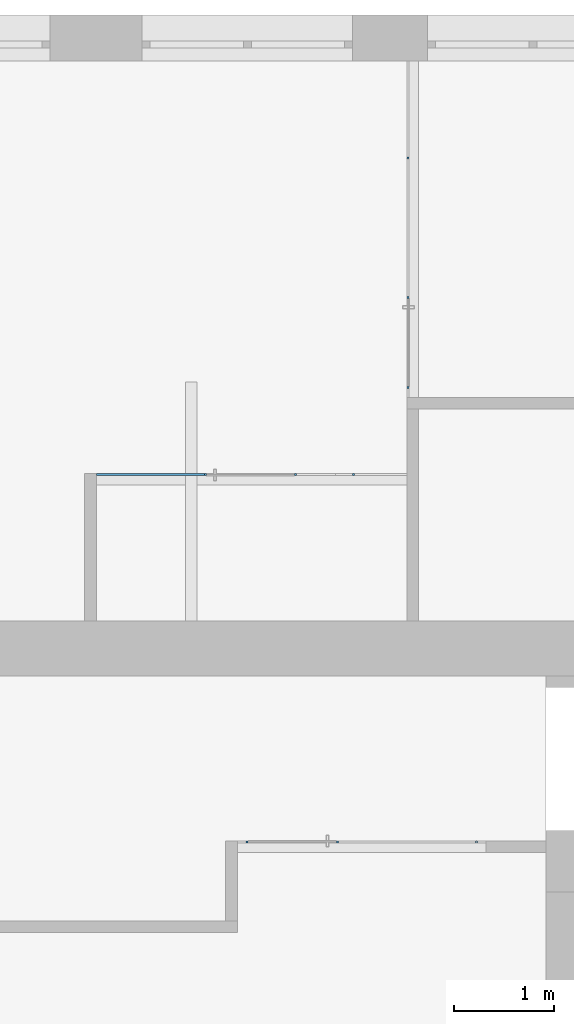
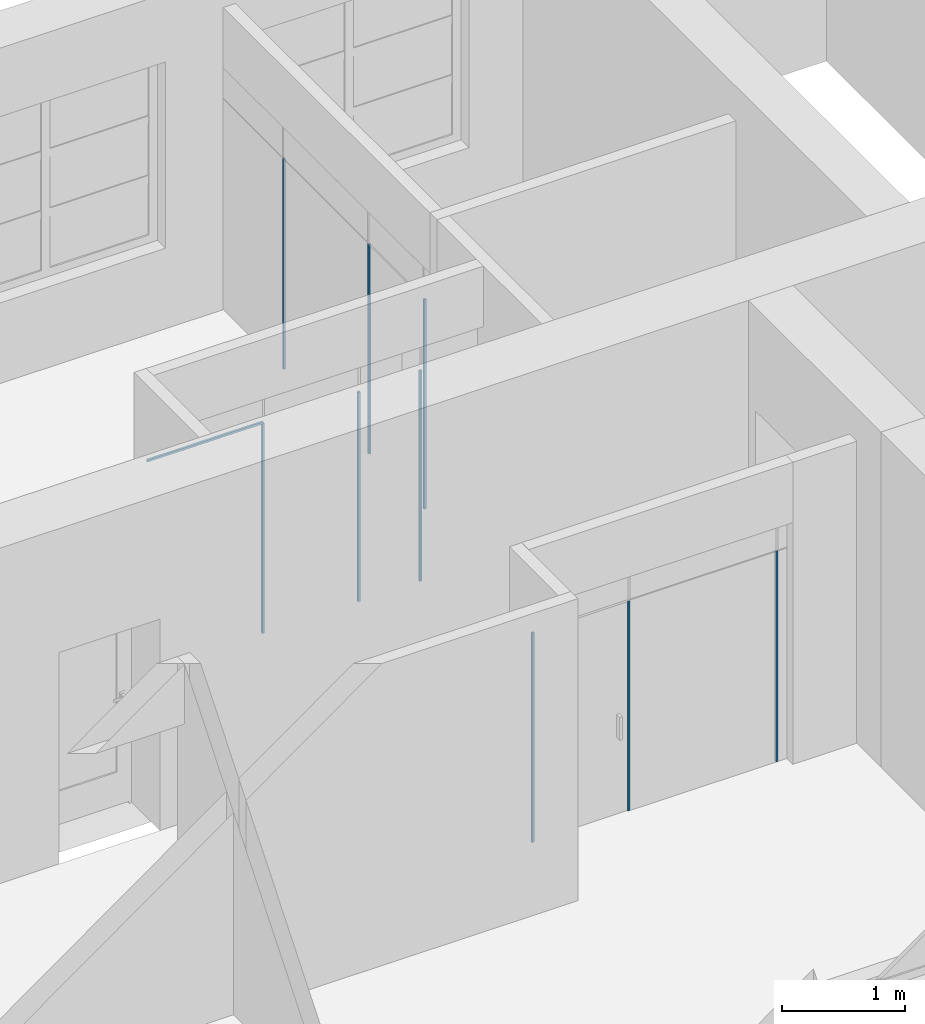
# One storey, part 4 of 73: 10 members, 3 elements without a shape of their own.
"""IFC2X3 building model written with IfcOpenShell, lengths in millimetres."""

import ifcopenshell
import ifcopenshell.guid

model = None  # the IFC model being written
_history = None  # IfcOwnerHistory: only IFC2X3 demands one
_inside = {}  # id of a spatial element -> (the spatial element, [elements in it])
_under = {}  # id of a project, library or spatial element -> (it, [spatial elements below it])
_declared = {}  # id of a project -> (the project, [libraries it declares])
_typed = {}  # id of a type object -> (the type object, [elements of that type])
_made_of = {}  # id of a material, layer set ... -> (it, [elements and type objects made of it])


def new_model(schema):
    """Start an empty IFC model of exactly this schema.

    Asked for "IFC4X3", IfcOpenShell would pick the latest addendum, in which some entities
    have other attributes; the version numbers below select the first issue.
    IFC2X3 requires an IfcOwnerHistory on every rooted entity: one is made here for all.
    """
    global model, _history
    if schema == "IFC4X3":
        model = ifcopenshell.file(schema_version=(4, 3, 0, 0))
    else:
        model = ifcopenshell.file(schema=schema)
    _inside.clear()
    _under.clear()
    _declared.clear()
    _typed.clear()
    _made_of.clear()
    _history = None
    if model.schema == "IFC2X3":
        org = make("IfcOrganization", Name="unknown")
        user = make(
            "IfcPersonAndOrganization",
            ThePerson=make("IfcPerson", FamilyName="unknown"),
            TheOrganization=org,
        )
        app = make(
            "IfcApplication",
            ApplicationDeveloper=org,
            Version="unknown",
            ApplicationFullName="unknown",
            ApplicationIdentifier="unknown",
        )
        _history = make(
            "IfcOwnerHistory",
            OwningUser=user,
            OwningApplication=app,
            ChangeAction="ADDED",
            CreationDate=0,
        )
    return model


def make(cls, **values):
    """One entity of the class cls with the attributes given. An attribute that is None is left unset."""
    return model.create_entity(
        cls, **{name: value for name, value in values.items() if value is not None}
    )


def entity(cls, *values):
    """Any entity or typed value of the class cls, its attributes in the order of the schema. None: left unset."""
    e = model.create_entity(cls)
    for i, value in enumerate(values):
        if value is not None:
            e[i] = value
    return e


def rooted(cls, **values):
    """An entity with a GlobalId (a new one), such as an element, a storey or a relation."""
    return make(cls, GlobalId=ifcopenshell.guid.new(), OwnerHistory=_history, **values)


def si_unit(unit_type, name, prefix=None):
    """IfcSIUnit, for example si_unit("LENGTHUNIT", "METRE", prefix="MILLI")."""
    return make("IfcSIUnit", UnitType=unit_type, Prefix=prefix, Name=name)


def converted_unit(unit_type, name, factor, base, dimensions=None, offset=None):
    """IfcConversionBasedUnit, such as the inch: factor (a typed value) times the base unit."""
    return make(
        "IfcConversionBasedUnit"
        if offset is None
        else "IfcConversionBasedUnitWithOffset",
        ConversionOffset=offset,
        Dimensions=None
        if dimensions is None
        else entity("IfcDimensionalExponents", *dimensions),
        UnitType=unit_type,
        Name=name,
        ConversionFactor=make(
            "IfcMeasureWithUnit", ValueComponent=factor, UnitComponent=base
        ),
    )


def derived_unit(unit_type, elements):
    """IfcDerivedUnit: a product of units, each with its exponent."""
    return make(
        "IfcDerivedUnit",
        Elements=[
            make("IfcDerivedUnitElement", Unit=unit, Exponent=power)
            for unit, power in elements
        ],
        UnitType=unit_type,
    )


def assignment(units):
    """IfcUnitAssignment: the units of a project."""
    return None if units is None else make("IfcUnitAssignment", Units=units)


def point(xyz):
    """IfcCartesianPoint."""
    return None if xyz is None else make("IfcCartesianPoint", Coordinates=xyz)


def direction(xyz):
    """IfcDirection."""
    return None if xyz is None else make("IfcDirection", DirectionRatios=xyz)


def frame(location, z_axis=None, x_axis=None):
    """IfcAxis2Placement3D, a coordinate frame: its origin and axes. An axis left out is left unset."""
    return make(
        "IfcAxis2Placement3D",
        Location=point(location),
        Axis=direction(z_axis),
        RefDirection=direction(x_axis),
    )


def frame_2d(location, x_axis=None):
    """IfcAxis2Placement2D, a coordinate frame in the plane: its origin and x axis."""
    return make(
        "IfcAxis2Placement2D", Location=point(location), RefDirection=direction(x_axis)
    )


def origin():
    """The frame at (0, 0, 0) with its axes left unset."""
    return frame((0.0, 0.0, 0.0))


def origin_2d_with_axis():
    """The frame at (0, 0) in the plane with the x axis (1, 0) written out."""
    return frame_2d((0.0, 0.0), x_axis=(1.0, 0.0))


def place(relative_to, where):
    """IfcLocalPlacement: puts the frame where relative to a parent placement (None: the world)."""
    return make(
        "IfcLocalPlacement", PlacementRelTo=relative_to, RelativePlacement=where
    )


def context(
    kind, dimensions, precision=None, world=None, true_north=None, identifier=None
):
    """IfcGeometricRepresentationContext, for example the 3D "Model" context."""
    return make(
        "IfcGeometricRepresentationContext",
        ContextIdentifier=identifier,
        ContextType=kind,
        CoordinateSpaceDimension=dimensions,
        Precision=precision,
        WorldCoordinateSystem=world,
        TrueNorth=true_north,
    )


def subcontext(parent, identifier, kind, view, scale=None):
    """IfcGeometricRepresentationSubContext, for example "Body" below "Model"."""
    return make(
        "IfcGeometricRepresentationSubContext",
        ContextIdentifier=identifier,
        ContextType=kind,
        ParentContext=parent,
        TargetScale=scale,
        TargetView=view,
    )


def project(units=None, contexts=None):
    """IfcProject with its units and contexts."""
    return rooted(
        "IfcProject",
        Name="project",
        RepresentationContexts=contexts,
        UnitsInContext=assignment(units),
    )


def spatial(cls, under=None, at=None, **own):
    """A site, building, storey or space (cls), placed at a placement, below another one or the project."""
    s = rooted(cls, ObjectPlacement=at, **own)
    if under is not None:
        _under.setdefault(under.id(), (under, []))[1].append(s)
    return s


def profile(cls, at=None, kind="AREA", **sizes):
    """A parametric profile (cls). Its sizes go by their IFC names, for example OverallWidth=200.0."""
    return make(cls, ProfileType=kind, Position=at, **sizes)


def rectangle(**sizes):
    """IfcRectangleProfileDef."""
    return profile("IfcRectangleProfileDef", **sizes)


def extrude(swept, where, along, depth):
    """IfcExtrudedAreaSolid: the profile swept, set in the frame where, extruded along a direction by depth."""
    return make(
        "IfcExtrudedAreaSolid",
        SweptArea=swept,
        Position=where,
        ExtrudedDirection=direction(along),
        Depth=depth,
    )


def shape(context_of_items, identifier, shape_type, items):
    """IfcShapeRepresentation: the items that make up one representation, for example the "Body"."""
    return make(
        "IfcShapeRepresentation",
        ContextOfItems=context_of_items,
        RepresentationIdentifier=identifier,
        RepresentationType=shape_type,
        Items=items,
    )


def source(mapping_origin, context_of_items, identifier, shape_type, items):
    """IfcRepresentationMap: a shape defined once, which mapped items show again and again."""
    return make(
        "IfcRepresentationMap",
        MappingOrigin=mapping_origin,
        MappedRepresentation=shape(context_of_items, identifier, shape_type, items),
    )


def transform(
    local_origin,
    x_axis=None,
    y_axis=None,
    z_axis=None,
    scale=None,
    scale2=None,
    scale3=None,
    uniform=True,
):
    """IfcCartesianTransformationOperator3D, or its non-uniform kind. x_axis, y_axis, z_axis: its Axis1, 2, 3."""
    if uniform:
        return make(
            "IfcCartesianTransformationOperator3D",
            Axis1=direction(x_axis),
            Axis2=direction(y_axis),
            LocalOrigin=point(local_origin),
            Scale=scale,
            Axis3=direction(z_axis),
        )
    return make(
        "IfcCartesianTransformationOperator3DnonUniform",
        Axis1=direction(x_axis),
        Axis2=direction(y_axis),
        LocalOrigin=point(local_origin),
        Scale=scale,
        Axis3=direction(z_axis),
        Scale2=scale2,
        Scale3=scale3,
    )


def mapped(mapping_source, mapping_target):
    """IfcMappedItem: shows the shape of a source again, moved by a transform."""
    return make(
        "IfcMappedItem", MappingSource=mapping_source, MappingTarget=mapping_target
    )


def material(Name=None, Category=None):
    """IfcMaterial."""
    return make("IfcMaterial", Name=Name, Category=Category)


def made_of(thing, what):
    """Note that an element or type object is made of a material, layer set ...; save() writes the relation."""
    if what is not None:
        _made_of.setdefault(what.id(), (what, []))[1].append(thing)
    return thing


def type_object(cls, material=None, **own):
    """A type object (cls), such as IfcWallType, which elements share."""
    return made_of(rooted(cls, **own), material)


def type_shapes(of_type, sources):
    """Give a type object the sources (RepresentationMaps) that its elements show as mapped items."""
    of_type.RepresentationMaps = sources


def element(
    cls,
    number,
    at=None,
    inside=None,
    cuts=None,
    type_object=None,
    material=None,
    context=None,
    identifier="Body",
    shape_type=None,
    held_by="IfcProductDefinitionShape",
    body=None,
    shapes=None,
    **own,
):
    """One element of the class cls, such as IfcWall. Its Tag is "e" and its number.

    at: its placement. inside: the storey or other place that contains it. cuts: it is an
    opening in that element (IfcRelVoidsElement). A single representation is given by context,
    identifier, shape_type and body (its items); several are given by shapes. held_by: the class
    of the entity that holds the representations. save() writes the other relations.
    """
    e = rooted(cls, Tag="e%d" % number, ObjectPlacement=at, **own)
    if body is not None:
        shapes = [shape(context, identifier, shape_type, body)]
    if shapes is not None:
        e.Representation = make(held_by, Representations=shapes)
    if inside is not None:
        _inside.setdefault(inside.id(), (inside, []))[1].append(e)
    if cuts is not None:
        rooted(
            "IfcRelVoidsElement", RelatingBuildingElement=cuts, RelatedOpeningElement=e
        )
    if type_object is not None:
        _typed.setdefault(type_object.id(), (type_object, []))[1].append(e)
    return made_of(e, material)


def aggregate(whole, parts):
    """IfcRelAggregates: a whole, such as a stair, and the parts it consists of."""
    return rooted("IfcRelAggregates", RelatingObject=whole, RelatedObjects=parts)


def save(model, path):
    """Write the relations noted so far, then the file.

    IfcRelAggregates (storeys below a building ...), IfcRelContainedInSpatialStructure (elements
    in a storey), IfcRelDefinesByType, IfcRelAssociatesMaterial and IfcRelDeclares: one each for
    every whole, place, type object, material and project.
    """
    for whole, parts in _under.values():
        aggregate(whole, parts)
    for where, things in _inside.values():
        rooted(
            "IfcRelContainedInSpatialStructure",
            RelatedElements=things,
            RelatingStructure=where,
        )
    for kind, things in _typed.values():
        rooted("IfcRelDefinesByType", RelatedObjects=things, RelatingType=kind)
    for what, things in _made_of.values():
        rooted("IfcRelAssociatesMaterial", RelatedObjects=things, RelatingMaterial=what)
    for by, libraries in _declared.values():
        rooted("IfcRelDeclares", RelatingContext=by, RelatedDefinitions=libraries)
    model.write(path)


model = new_model("IFC2X3")

# Units and contexts
model_context = context("Model", 3, precision=0.01, world=origin(), true_north=direction((6.12303176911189e-17, 1.0)))
body_context = subcontext(model_context, "Body", "Model", "MODEL_VIEW")
ifc_project = project(units=[si_unit("LENGTHUNIT", "METRE", prefix="MILLI"), si_unit("AREAUNIT", "SQUARE_METRE"), si_unit("VOLUMEUNIT", "CUBIC_METRE"), converted_unit("PLANEANGLEUNIT", "DEGREE", entity("IfcRatioMeasure", 0.0174532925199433), si_unit("PLANEANGLEUNIT", "RADIAN"), dimensions=[0, 0, 0, 0, 0, 0, 0]), si_unit("MASSUNIT", "GRAM", prefix="KILO"), derived_unit("MASSDENSITYUNIT", [(si_unit("MASSUNIT", "GRAM", prefix="KILO"), 1), (si_unit("LENGTHUNIT", "METRE"), -3)]), si_unit("TIMEUNIT", "SECOND"), si_unit("FREQUENCYUNIT", "HERTZ"), si_unit("THERMODYNAMICTEMPERATUREUNIT", "DEGREE_CELSIUS"), derived_unit("THERMALTRANSMITTANCEUNIT", [(si_unit("MASSUNIT", "GRAM", prefix="KILO"), 1), (si_unit("THERMODYNAMICTEMPERATUREUNIT", "KELVIN"), -1), (si_unit("TIMEUNIT", "SECOND"), -3)]), derived_unit("VOLUMETRICFLOWRATEUNIT", [(si_unit("LENGTHUNIT", "METRE"), 3), (si_unit("TIMEUNIT", "SECOND"), -1)]), si_unit("ELECTRICCURRENTUNIT", "AMPERE"), si_unit("ELECTRICVOLTAGEUNIT", "VOLT"), si_unit("POWERUNIT", "WATT"), si_unit("FORCEUNIT", "NEWTON", prefix="KILO"), si_unit("ILLUMINANCEUNIT", "LUX"), si_unit("LUMINOUSFLUXUNIT", "LUMEN"), si_unit("LUMINOUSINTENSITYUNIT", "CANDELA"), derived_unit("USERDEFINED", [(si_unit("MASSUNIT", "GRAM", prefix="KILO"), -1), (si_unit("LENGTHUNIT", "METRE"), -2), (si_unit("TIMEUNIT", "SECOND"), 3), (si_unit("LUMINOUSFLUXUNIT", "LUMEN"), 1)]), derived_unit("LINEARVELOCITYUNIT", [(si_unit("LENGTHUNIT", "METRE"), 1), (si_unit("TIMEUNIT", "SECOND"), -1)]), si_unit("PRESSUREUNIT", "PASCAL"), derived_unit("USERDEFINED", [(si_unit("LENGTHUNIT", "METRE"), -2), (si_unit("MASSUNIT", "GRAM", prefix="KILO"), 1), (si_unit("TIMEUNIT", "SECOND"), -2)])], contexts=[model_context])

# Site, building, storey
site_placement = place(None, frame((-151.875543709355, 2715.0, 0.0)))
site = spatial("IfcSite", under=ifc_project, at=site_placement, Name="Surface", CompositionType="ELEMENT")
building_placement = place(site_placement, origin())
building = spatial("IfcBuilding", under=site, at=building_placement, CompositionType="ELEMENT")
storey_placement = place(building_placement, frame((0.0, 0.0, 6730.43000000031)))
storey = spatial("IfcBuildingStorey", under=building, at=storey_placement, Name="3 korrus", CompositionType="ELEMENT", Elevation=6730.43000000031)

# Curtain wall, member
curtain_wall_type_1 = type_object("IfcCurtainWallType", Name="Curtain Wall:Klaassein KLS-20", PredefinedType="NOTDEFINED")
curtain_wall_1_placement = place(storey_placement, frame((0.0, 0.0, -6730.43000000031)))
curtain_wall_1 = element("IfcCurtainWall", 1, at=curtain_wall_1_placement, inside=storey, type_object=curtain_wall_type_1, Name="Curtain Wall:Klaassein KLS-20", ObjectType="Curtain Wall:Klaassein KLS-20")
ifc_material = material(Name="__Uks_hele tamm")
member_type_1 = type_object("IfcMemberType", Name="20 x 20mm", PredefinedType="MEMBER")
shared_shape_1 = source(origin(), body_context, "Body", "SweptSolid", [
    extrude(rectangle(XDim=20.0, YDim=20.0, at=origin_2d_with_axis()), frame((0.0, 0.0, -2090.0), z_axis=(0.0, 0.0, 1.0), x_axis=(0.0, -1.0, 0.0)), (0.0, 0.0, 1.0), 2090.0),
])
type_shapes(member_type_1, [shared_shape_1])
member_1_placement = place(storey_placement, frame((29851.0878393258, 4355.04493399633, 0.0), z_axis=(0.0, 0.0, -1.0), x_axis=(-1.0, 0.0, 0.0)))
member_1 = element("IfcMember", 2, at=member_1_placement, type_object=member_type_1, material=ifc_material, Name="Rectangular Mullion:20 x 20mm", ObjectType="20 x 20mm", context=body_context, shape_type="MappedRepresentation", body=[
    mapped(shared_shape_1, transform((0.0, 0.0, 0.0), scale=1.0)),
])

curtain_wall_type_2 = type_object("IfcCurtainWallType", Name="Curtain Wall:Klaassein KLS-21", PredefinedType="NOTDEFINED")
curtain_wall_2_placement = place(storey_placement, frame((0.0, 0.0, -6730.43000000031)))
curtain_wall_2 = element("IfcCurtainWall", 3, at=curtain_wall_2_placement, inside=storey, type_object=curtain_wall_type_2, Name="Curtain Wall:Klaassein KLS-21", ObjectType="Curtain Wall:Klaassein KLS-21")
member_2_placement = place(storey_placement, frame((28623.0687011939, 8021.06145812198, 0.0), z_axis=(0.0, 0.0, -1.0), x_axis=(-1.0, 0.0, 0.0)))
member_2 = element("IfcMember", 4, at=member_2_placement, type_object=member_type_1, material=ifc_material, Name="Rectangular Mullion:20 x 20mm", ObjectType="20 x 20mm", context=body_context, shape_type="MappedRepresentation", body=[
    mapped(shared_shape_1, transform((0.0, 0.0, 0.0), scale=1.0)),
])

curtain_wall_type_3 = type_object("IfcCurtainWallType", Name="Curtain Wall:Klaassein KLS-22", PredefinedType="NOTDEFINED")
curtain_wall_3_placement = place(storey_placement, frame((0.0, 0.0, -6730.43000000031)))
curtain_wall_3 = element("IfcCurtainWall", 5, at=curtain_wall_3_placement, inside=storey, type_object=curtain_wall_type_3, Name="Curtain Wall:Klaassein KLS-22", ObjectType="Curtain Wall:Klaassein KLS-22")
member_3_placement = place(storey_placement, frame((29165.6162681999, 11179.3528367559, 0.0), z_axis=(0.0, 0.0, -1.0), x_axis=(0.0, -1.0, 0.0)))
member_3 = element("IfcMember", 6, at=member_3_placement, type_object=member_type_1, material=ifc_material, Name="Rectangular Mullion:20 x 20mm", ObjectType="20 x 20mm", context=body_context, shape_type="MappedRepresentation", body=[
    mapped(shared_shape_1, transform((0.0, 0.0, 0.0), scale=1.0)),
])

# Member
member_type_2 = type_object("IfcMemberType", Name="20 x 20mm", PredefinedType="MEMBER")
shared_shape_2 = source(origin(), body_context, "Body", "SweptSolid", [
    extrude(rectangle(XDim=20.0, YDim=20.0, at=origin_2d_with_axis()), frame((0.0, 0.0, -2080.0), z_axis=(0.0, 0.0, 1.0), x_axis=(0.0, -1.0, 0.0)), (0.0, 0.0, 1.0), 2080.0),
])
type_shapes(member_type_2, [shared_shape_2])
member_4_placement = place(storey_placement, frame((28461.564726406, 4355.04493399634, 0.0), z_axis=(0.0, 0.0, -1.0), x_axis=(-1.0, 0.0, 0.0)))
member_4 = element("IfcMember", 7, at=member_4_placement, type_object=member_type_2, material=ifc_material, Name="Rectangular Mullion:20 x 20mm", ObjectType="20 x 20mm", context=body_context, shape_type="MappedRepresentation", body=[
    mapped(shared_shape_2, transform((0.0, 0.0, 0.0), scale=1.0)),
])

member_5_placement = place(storey_placement, frame((28044.1393811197, 8021.06145812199, 0.0), z_axis=(0.0, 0.0, -1.0), x_axis=(-1.0, 0.0, 0.0)))
member_5 = element("IfcMember", 8, at=member_5_placement, type_object=member_type_2, material=ifc_material, Name="Rectangular Mullion:20 x 20mm", ObjectType="20 x 20mm", context=body_context, shape_type="MappedRepresentation", body=[
    mapped(shared_shape_2, transform((0.0, 0.0, 0.0), scale=1.0)),
])

member_6_placement = place(storey_placement, frame((29165.6162681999, 9789.82972383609, 0.0), z_axis=(0.0, 0.0, -1.0), x_axis=(0.0, -1.0, 0.0)))
member_6 = element("IfcMember", 9, at=member_6_placement, type_object=member_type_2, material=ifc_material, Name="Rectangular Mullion:20 x 20mm", ObjectType="20 x 20mm", context=body_context, shape_type="MappedRepresentation", body=[
    mapped(shared_shape_2, transform((0.0, 0.0, 0.0), scale=1.0)),
])

member_type_3 = type_object("IfcMemberType", Name="20 x 20mm", PredefinedType="MEMBER")
shared_shape_3 = source(origin(), body_context, "Body", "SweptSolid", [
    extrude(rectangle(XDim=20.0, YDim=20.0, at=origin_2d_with_axis()), frame((0.0, 0.0, -2080.0), z_axis=(0.0, 0.0, 1.0), x_axis=(0.0, -1.0, 0.0)), (0.0, 0.0, 1.0), 2080.0),
])
type_shapes(member_type_3, [shared_shape_3])
member_7_placement = place(storey_placement, frame((27561.564726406, 4355.04493399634, 0.0), z_axis=(0.0, 0.0, -1.0), x_axis=(-1.0, 0.0, 0.0)))
member_7 = element("IfcMember", 10, at=member_7_placement, type_object=member_type_3, material=ifc_material, Name="Rectangular Mullion:20 x 20mm", ObjectType="20 x 20mm", context=body_context, shape_type="MappedRepresentation", body=[
    mapped(shared_shape_3, transform((0.0, 0.0, 0.0), scale=1.0)),
])

aggregate(curtain_wall_1, [member_1, member_4, member_7])

member_type_4 = type_object("IfcMemberType", Name="20 x 20mm", PredefinedType="MEMBER")
shared_shape_4 = source(origin(), body_context, "Body", "SweptSolid", [
    extrude(rectangle(XDim=20.0, YDim=20.0, at=origin_2d_with_axis()), frame((0.0, 0.0, -2080.0), z_axis=(0.0, 0.0, 1.0), x_axis=(0.0, -1.0, 0.0)), (0.0, 0.0, 1.0), 2080.0),
])
type_shapes(member_type_4, [shared_shape_4])
member_8_placement = place(storey_placement, frame((29165.6162681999, 8889.8297238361, 0.0), z_axis=(0.0, 0.0, -1.0), x_axis=(0.0, -1.0, 0.0)))
member_8 = element("IfcMember", 11, at=member_8_placement, type_object=member_type_4, material=ifc_material, Name="Rectangular Mullion:20 x 20mm", ObjectType="20 x 20mm", context=body_context, shape_type="MappedRepresentation", body=[
    mapped(shared_shape_4, transform((0.0, 0.0, 0.0), scale=1.0)),
])

aggregate(curtain_wall_3, [member_3, member_6, member_8])

member_type_5 = type_object("IfcMemberType", Name="20 x 20mm", PredefinedType="MEMBER")
shared_shape_5 = source(origin(), body_context, "Body", "SweptSolid", [
    extrude(rectangle(XDim=20.0, YDim=20.0, at=origin_2d_with_axis()), frame((0.0, 0.0, -1088.52311291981), z_axis=(0.0, 0.0, 1.0), x_axis=(0.0, -1.0, 0.0)), (0.0, 0.0, 1.0), 1088.52311291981),
])
type_shapes(member_type_5, [shared_shape_5])
member_9_placement = place(storey_placement, frame((26055.6162681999, 8021.06145812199, 2090.0), z_axis=(-1.0, 0.0, 0.0), x_axis=(0.0, 0.0, 1.0)))
member_9 = element("IfcMember", 12, at=member_9_placement, type_object=member_type_5, material=ifc_material, Name="Rectangular Mullion:20 x 20mm", ObjectType="20 x 20mm", context=body_context, shape_type="MappedRepresentation", body=[
    mapped(shared_shape_5, transform((0.0, 0.0, 0.0), scale=1.0)),
])

member_type_6 = type_object("IfcMemberType", Name="20 x 20mm", PredefinedType="MEMBER")
shared_shape_6 = source(origin(), body_context, "Body", "SweptSolid", [
    extrude(rectangle(XDim=20.0, YDim=20.0, at=origin_2d_with_axis()), frame((0.0, 0.0, -2080.0), z_axis=(0.0, 0.0, 1.0), x_axis=(0.0, -1.0, 0.0)), (0.0, 0.0, 1.0), 2080.0),
])
type_shapes(member_type_6, [shared_shape_6])
member_10_placement = place(storey_placement, frame((27144.1393811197, 8021.06145812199, 0.0), z_axis=(0.0, 0.0, -1.0), x_axis=(-1.0, 0.0, 0.0)))
member_10 = element("IfcMember", 13, at=member_10_placement, type_object=member_type_6, material=ifc_material, Name="Rectangular Mullion:20 x 20mm", ObjectType="20 x 20mm", context=body_context, shape_type="MappedRepresentation", body=[
    mapped(shared_shape_6, transform((0.0, 0.0, 0.0), scale=1.0)),
])

aggregate(curtain_wall_2, [member_2, member_5, member_9, member_10])

save(model, "model.ifc")
